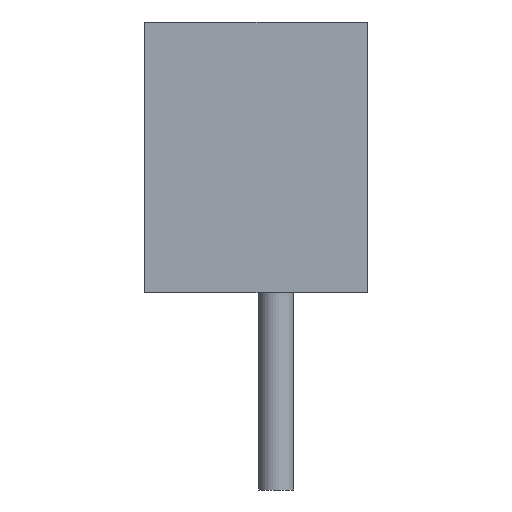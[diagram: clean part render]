
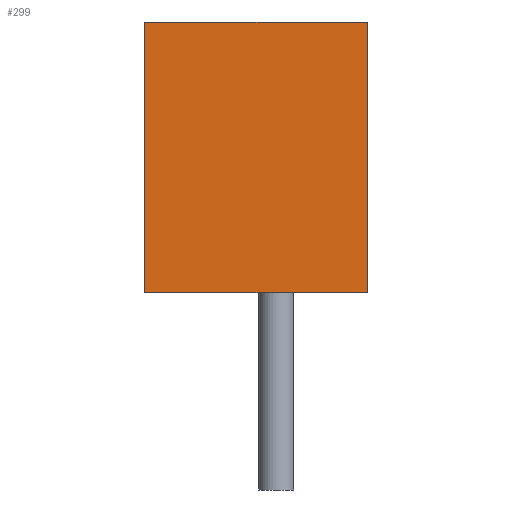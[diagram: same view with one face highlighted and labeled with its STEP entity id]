
A CAD part, left-side view. The second image highlights one B-rep face of the part: STEP entity #299.
In plain terms, the highlighted planar face has unit normal (-1, 0, 0).
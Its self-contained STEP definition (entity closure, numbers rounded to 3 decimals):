
#36 = EDGE_CURVE('',#37,#39,#41,.T.);
#37 = VERTEX_POINT('',#38);
#38 = CARTESIAN_POINT('',(-2.45,3.4,0.));
#39 = VERTEX_POINT('',#40);
#40 = CARTESIAN_POINT('',(-2.45,3.4,7.));
#41 = SURFACE_CURVE('',#42,(#46,#58),.PCURVE_S1.);
#42 = LINE('',#43,#44);
#43 = CARTESIAN_POINT('',(-2.45,3.4,0.));
#44 = VECTOR('',#45,1.);
#45 = DIRECTION('',(0.,0.,1.));
#46 = PCURVE('',#47,#52);
#47 = PLANE('',#48);
#48 = AXIS2_PLACEMENT_3D('',#49,#50,#51);
#49 = CARTESIAN_POINT('',(-2.45,3.4,0.));
#50 = DIRECTION('',(0.,1.,0.));
#51 = DIRECTION('',(1.,0.,0.));
#52 = DEFINITIONAL_REPRESENTATION('',(#53),#57);
#53 = LINE('',#54,#55);
#54 = CARTESIAN_POINT('',(0.,0.));
#55 = VECTOR('',#56,1.);
#56 = DIRECTION('',(0.,-1.));
#57 = ( GEOMETRIC_REPRESENTATION_CONTEXT(2) 
PARAMETRIC_REPRESENTATION_CONTEXT() REPRESENTATION_CONTEXT('2D SPACE',''
  ) );
#58 = PCURVE('',#59,#64);
#59 = PLANE('',#60);
#60 = AXIS2_PLACEMENT_3D('',#61,#62,#63);
#61 = CARTESIAN_POINT('',(-2.45,-2.35,0.));
#62 = DIRECTION('',(-1.,0.,0.));
#63 = DIRECTION('',(0.,1.,0.));
#64 = DEFINITIONAL_REPRESENTATION('',(#65),#69);
#65 = LINE('',#66,#67);
#66 = CARTESIAN_POINT('',(5.75,0.));
#67 = VECTOR('',#68,1.);
#68 = DIRECTION('',(0.,-1.));
#69 = ( GEOMETRIC_REPRESENTATION_CONTEXT(2) 
PARAMETRIC_REPRESENTATION_CONTEXT() REPRESENTATION_CONTEXT('2D SPACE',''
  ) );
#87 = PLANE('',#88);
#88 = AXIS2_PLACEMENT_3D('',#89,#90,#91);
#89 = CARTESIAN_POINT('',(11.25,0.525,7.));
#90 = DIRECTION('',(-0.,-0.,-1.));
#91 = DIRECTION('',(-1.,0.,0.));
#141 = PLANE('',#142);
#142 = AXIS2_PLACEMENT_3D('',#143,#144,#145);
#143 = CARTESIAN_POINT('',(11.25,0.525,0.));
#144 = DIRECTION('',(-0.,-0.,-1.));
#145 = DIRECTION('',(-1.,0.,0.));
#196 = PLANE('',#197);
#197 = AXIS2_PLACEMENT_3D('',#198,#199,#200);
#198 = CARTESIAN_POINT('',(24.95,-2.35,0.));
#199 = DIRECTION('',(0.,-1.,0.));
#200 = DIRECTION('',(-1.,0.,0.));
#234 = VERTEX_POINT('',#235);
#235 = CARTESIAN_POINT('',(-2.45,-2.35,7.));
#256 = EDGE_CURVE('',#257,#234,#259,.T.);
#257 = VERTEX_POINT('',#258);
#258 = CARTESIAN_POINT('',(-2.45,-2.35,0.));
#259 = SURFACE_CURVE('',#260,(#264,#271),.PCURVE_S1.);
#260 = LINE('',#261,#262);
#261 = CARTESIAN_POINT('',(-2.45,-2.35,0.));
#262 = VECTOR('',#263,1.);
#263 = DIRECTION('',(0.,0.,1.));
#264 = PCURVE('',#196,#265);
#265 = DEFINITIONAL_REPRESENTATION('',(#266),#270);
#266 = LINE('',#267,#268);
#267 = CARTESIAN_POINT('',(27.4,0.));
#268 = VECTOR('',#269,1.);
#269 = DIRECTION('',(0.,-1.));
#270 = ( GEOMETRIC_REPRESENTATION_CONTEXT(2) 
PARAMETRIC_REPRESENTATION_CONTEXT() REPRESENTATION_CONTEXT('2D SPACE',''
  ) );
#271 = PCURVE('',#59,#272);
#272 = DEFINITIONAL_REPRESENTATION('',(#273),#277);
#273 = LINE('',#274,#275);
#274 = CARTESIAN_POINT('',(0.,0.));
#275 = VECTOR('',#276,1.);
#276 = DIRECTION('',(0.,-1.));
#277 = ( GEOMETRIC_REPRESENTATION_CONTEXT(2) 
PARAMETRIC_REPRESENTATION_CONTEXT() REPRESENTATION_CONTEXT('2D SPACE',''
  ) );
#299 = ADVANCED_FACE('',(#300),#59,.T.);
#300 = FACE_BOUND('',#301,.T.);
#301 = EDGE_LOOP('',(#302,#303,#324,#325));
#302 = ORIENTED_EDGE('',*,*,#256,.T.);
#303 = ORIENTED_EDGE('',*,*,#304,.T.);
#304 = EDGE_CURVE('',#234,#39,#305,.T.);
#305 = SURFACE_CURVE('',#306,(#310,#317),.PCURVE_S1.);
#306 = LINE('',#307,#308);
#307 = CARTESIAN_POINT('',(-2.45,-2.35,7.));
#308 = VECTOR('',#309,1.);
#309 = DIRECTION('',(0.,1.,0.));
#310 = PCURVE('',#59,#311);
#311 = DEFINITIONAL_REPRESENTATION('',(#312),#316);
#312 = LINE('',#313,#314);
#313 = CARTESIAN_POINT('',(0.,-7.));
#314 = VECTOR('',#315,1.);
#315 = DIRECTION('',(1.,0.));
#316 = ( GEOMETRIC_REPRESENTATION_CONTEXT(2) 
PARAMETRIC_REPRESENTATION_CONTEXT() REPRESENTATION_CONTEXT('2D SPACE',''
  ) );
#317 = PCURVE('',#87,#318);
#318 = DEFINITIONAL_REPRESENTATION('',(#319),#323);
#319 = LINE('',#320,#321);
#320 = CARTESIAN_POINT('',(13.7,-2.875));
#321 = VECTOR('',#322,1.);
#322 = DIRECTION('',(0.,1.));
#323 = ( GEOMETRIC_REPRESENTATION_CONTEXT(2) 
PARAMETRIC_REPRESENTATION_CONTEXT() REPRESENTATION_CONTEXT('2D SPACE',''
  ) );
#324 = ORIENTED_EDGE('',*,*,#36,.F.);
#325 = ORIENTED_EDGE('',*,*,#326,.F.);
#326 = EDGE_CURVE('',#257,#37,#327,.T.);
#327 = SURFACE_CURVE('',#328,(#332,#339),.PCURVE_S1.);
#328 = LINE('',#329,#330);
#329 = CARTESIAN_POINT('',(-2.45,-2.35,0.));
#330 = VECTOR('',#331,1.);
#331 = DIRECTION('',(0.,1.,0.));
#332 = PCURVE('',#59,#333);
#333 = DEFINITIONAL_REPRESENTATION('',(#334),#338);
#334 = LINE('',#335,#336);
#335 = CARTESIAN_POINT('',(0.,0.));
#336 = VECTOR('',#337,1.);
#337 = DIRECTION('',(1.,0.));
#338 = ( GEOMETRIC_REPRESENTATION_CONTEXT(2) 
PARAMETRIC_REPRESENTATION_CONTEXT() REPRESENTATION_CONTEXT('2D SPACE',''
  ) );
#339 = PCURVE('',#141,#340);
#340 = DEFINITIONAL_REPRESENTATION('',(#341),#345);
#341 = LINE('',#342,#343);
#342 = CARTESIAN_POINT('',(13.7,-2.875));
#343 = VECTOR('',#344,1.);
#344 = DIRECTION('',(0.,1.));
#345 = ( GEOMETRIC_REPRESENTATION_CONTEXT(2) 
PARAMETRIC_REPRESENTATION_CONTEXT() REPRESENTATION_CONTEXT('2D SPACE',''
  ) );
